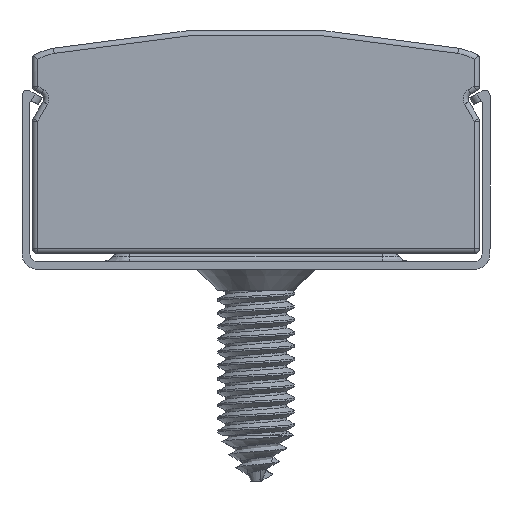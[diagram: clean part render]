
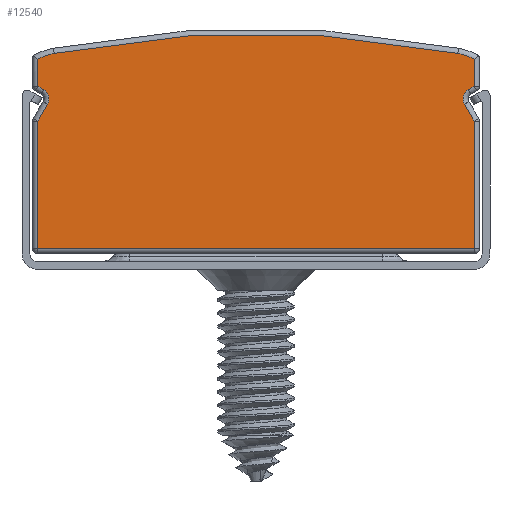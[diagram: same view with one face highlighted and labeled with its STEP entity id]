
A CAD part, front view. The second image highlights one B-rep face of the part: STEP entity #12540.
In plain terms, the highlighted planar face has unit normal (0, -1, 0).
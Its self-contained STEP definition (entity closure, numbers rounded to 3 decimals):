
#237=PLANE('',#13527);
#698=FACE_OUTER_BOUND('',#1516,.T.);
#1516=EDGE_LOOP('',(#8444,#8445,#8446,#8447,#8448,#8449,#8450,#8451,#8452,
#8453,#8454,#8455,#8456,#8457));
#2473=CIRCLE('',#13484,0.4);
#2489=CIRCLE('',#13510,0.4);
#2496=CIRCLE('',#13524,2.449);
#2499=CIRCLE('',#13528,2.449);
#2500=CIRCLE('',#13529,39.742);
#3218=LINE('',#19187,#4216);
#3220=LINE('',#19207,#4218);
#3221=LINE('',#19218,#4219);
#3224=LINE('',#19229,#4222);
#3226=LINE('',#19239,#4224);
#3228=LINE('',#19249,#4226);
#3230=LINE('',#19259,#4228);
#3231=LINE('',#19270,#4229);
#3233=LINE('',#19289,#4231);
#4216=VECTOR('',#15053,10.);
#4218=VECTOR('',#15061,10.);
#4219=VECTOR('',#15074,10.);
#4222=VECTOR('',#15087,10.);
#4224=VECTOR('',#15099,10.);
#4226=VECTOR('',#15111,10.);
#4228=VECTOR('',#15123,10.);
#4229=VECTOR('',#15136,10.);
#4231=VECTOR('',#15144,10.);
#5252=VERTEX_POINT('',#19184);
#5253=VERTEX_POINT('',#19186);
#5256=VERTEX_POINT('',#19205);
#5258=VERTEX_POINT('',#19210);
#5260=VERTEX_POINT('',#19216);
#5263=VERTEX_POINT('',#19227);
#5266=VERTEX_POINT('',#19237);
#5269=VERTEX_POINT('',#19247);
#5272=VERTEX_POINT('',#19257);
#5274=VERTEX_POINT('',#19262);
#5276=VERTEX_POINT('',#19268);
#5278=VERTEX_POINT('',#19276);
#5284=VERTEX_POINT('',#19319);
#5286=VERTEX_POINT('',#19325);
#6456=EDGE_CURVE('',#5252,#5253,#3218,.T.);
#6461=EDGE_CURVE('',#5256,#5252,#3220,.T.);
#6463=EDGE_CURVE('',#5258,#5256,#2473,.T.);
#6466=EDGE_CURVE('',#5260,#5258,#3221,.T.);
#6472=EDGE_CURVE('',#5263,#5260,#3224,.T.);
#6477=EDGE_CURVE('',#5266,#5263,#3226,.T.);
#6482=EDGE_CURVE('',#5269,#5266,#3228,.T.);
#6487=EDGE_CURVE('',#5272,#5269,#3230,.T.);
#6489=EDGE_CURVE('',#5274,#5272,#2489,.T.);
#6492=EDGE_CURVE('',#5276,#5274,#3231,.T.);
#6496=EDGE_CURVE('',#5278,#5276,#3233,.T.);
#6505=EDGE_CURVE('',#5253,#5284,#2496,.T.);
#6508=EDGE_CURVE('',#5286,#5278,#2499,.T.);
#6509=EDGE_CURVE('',#5284,#5286,#2500,.T.);
#8444=ORIENTED_EDGE('',*,*,#6456,.F.);
#8445=ORIENTED_EDGE('',*,*,#6461,.F.);
#8446=ORIENTED_EDGE('',*,*,#6463,.F.);
#8447=ORIENTED_EDGE('',*,*,#6466,.F.);
#8448=ORIENTED_EDGE('',*,*,#6472,.F.);
#8449=ORIENTED_EDGE('',*,*,#6477,.F.);
#8450=ORIENTED_EDGE('',*,*,#6482,.F.);
#8451=ORIENTED_EDGE('',*,*,#6487,.F.);
#8452=ORIENTED_EDGE('',*,*,#6489,.F.);
#8453=ORIENTED_EDGE('',*,*,#6492,.F.);
#8454=ORIENTED_EDGE('',*,*,#6496,.F.);
#8455=ORIENTED_EDGE('',*,*,#6508,.F.);
#8456=ORIENTED_EDGE('',*,*,#6509,.F.);
#8457=ORIENTED_EDGE('',*,*,#6505,.F.);
#12540=ADVANCED_FACE('',(#698),#237,.T.);
#13484=AXIS2_PLACEMENT_3D('',#19212,#15066,#15067);
#13510=AXIS2_PLACEMENT_3D('',#19264,#15128,#15129);
#13524=AXIS2_PLACEMENT_3D('',#19320,#15162,#15163);
#13527=AXIS2_PLACEMENT_3D('',#19324,#15168,#15169);
#13528=AXIS2_PLACEMENT_3D('',#19326,#15170,#15171);
#13529=AXIS2_PLACEMENT_3D('',#19327,#15172,#15173);
#15053=DIRECTION('',(0.,0.,1.));
#15061=DIRECTION('',(-0.866,0.,0.5));
#15066=DIRECTION('center_axis',(0.,-1.,0.));
#15067=DIRECTION('ref_axis',(0.966,0.,0.259));
#15074=DIRECTION('',(0.5,0.,0.866));
#15087=DIRECTION('',(0.,0.,1.));
#15099=DIRECTION('',(-1.,0.,0.));
#15111=DIRECTION('',(0.,0.,-1.));
#15123=DIRECTION('',(0.5,0.,-0.866));
#15128=DIRECTION('center_axis',(0.,-1.,0.));
#15129=DIRECTION('ref_axis',(-0.966,0.,0.259));
#15136=DIRECTION('',(-0.866,0.,-0.5));
#15144=DIRECTION('',(0.,0.,-1.));
#15162=DIRECTION('center_axis',(0.,1.,0.));
#15163=DIRECTION('ref_axis',(-0.326,0.,0.945));
#15168=DIRECTION('center_axis',(0.,-1.,0.));
#15169=DIRECTION('ref_axis',(1.,0.,0.));
#15170=DIRECTION('center_axis',(0.,1.,0.));
#15171=DIRECTION('ref_axis',(0.326,0.,0.945));
#15172=DIRECTION('center_axis',(0.,1.,0.));
#15173=DIRECTION('ref_axis',(0.,0.,1.));
#19184=CARTESIAN_POINT('',(-8.3,-1.,6.365));
#19186=CARTESIAN_POINT('',(-8.3,-1.,7.403));
#19187=CARTESIAN_POINT('',(-8.3,-1.,5.843));
#19205=CARTESIAN_POINT('',(-8.073,-1.,6.235));
#19207=CARTESIAN_POINT('',(-4.737,-1.,4.308));
#19210=CARTESIAN_POINT('',(-7.927,-1.,5.688));
#19212=CARTESIAN_POINT('Origin',(-8.273,-1.,5.888));
#19216=CARTESIAN_POINT('',(-8.3,-1.,5.042));
#19218=CARTESIAN_POINT('',(-7.24,-1.,6.877));
#19227=CARTESIAN_POINT('',(-8.3,-1.,0.2));
#19229=CARTESIAN_POINT('',(-8.3,-1.,4.662));
#19237=CARTESIAN_POINT('',(8.3,-1.,0.2));
#19239=CARTESIAN_POINT('',(-4.15,-1.,0.2));
#19247=CARTESIAN_POINT('',(8.3,-1.,5.042));
#19249=CARTESIAN_POINT('',(8.3,-1.,2.242));
#19257=CARTESIAN_POINT('',(7.927,-1.,5.688));
#19259=CARTESIAN_POINT('',(7.427,-1.,6.554));
#19262=CARTESIAN_POINT('',(8.073,-1.,6.235));
#19264=CARTESIAN_POINT('Origin',(8.273,-1.,5.888));
#19268=CARTESIAN_POINT('',(8.3,-1.,6.365));
#19270=CARTESIAN_POINT('',(4.623,-1.,4.243));
#19276=CARTESIAN_POINT('',(8.3,-1.,7.403));
#19289=CARTESIAN_POINT('',(8.3,-1.,5.324));
#19319=CARTESIAN_POINT('',(-7.672,-1.,7.618));
#19320=CARTESIAN_POINT('Origin',(-7.199,-1.,5.215));
#19324=CARTESIAN_POINT('Origin',(0.,-1.,4.283));
#19325=CARTESIAN_POINT('',(7.672,-1.,7.618));
#19326=CARTESIAN_POINT('Origin',(7.199,-1.,5.215));
#19327=CARTESIAN_POINT('Origin',(0.,-1.,-31.376));
